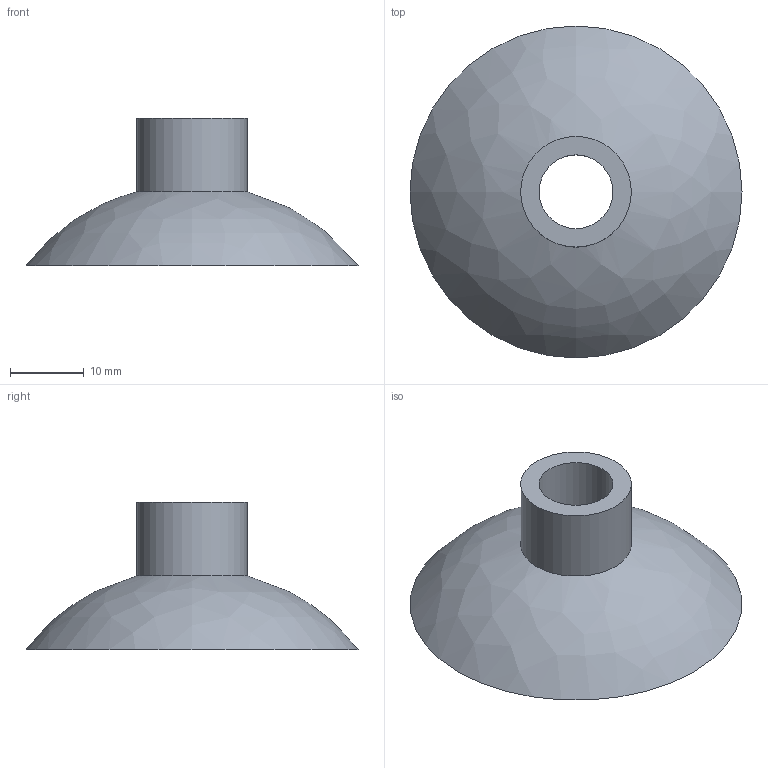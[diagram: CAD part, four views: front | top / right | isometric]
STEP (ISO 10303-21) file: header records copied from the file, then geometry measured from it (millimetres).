
FILE_DESCRIPTION(('STEP AP214'),'1');
FILE_NAME('CA.08.03.010.stp','2019-04-18T09:08:11',(' '),(' '),'Spatial InterOp 3D',' ',' ');
FILE_SCHEMA(('AUTOMOTIVE_DESIGN { 1 0 10303 214 1 1 1 1 }'));
Length unit declared in the file: millimetre
Products named in the file (1): CA.08.03.010
Bounding box: 45 x 45 x 20 mm (x, y, z)
Volume: 2335.6 mm3; surface area: 4509.3 mm2
Topology: 1 solids, 1 shells, 7 faces, 12 edges, 7 vertices
Faces by surface type: cylinder 2, plane 2, bspline 2, cone 1
Full cylindrical faces by diameter (mm): 10 x1, 15 x1
Entity records: 266 total; most frequent: CARTESIAN_POINT 76, DIRECTION 26, EDGE_LOOP 14, ORIENTED_EDGE 14, AXIS2_PLACEMENT_3D 13, FACE_OUTER_BOUND 11, STYLED_ITEM 7, PRESENTATION_STYLE_ASSIGNMENT 7
